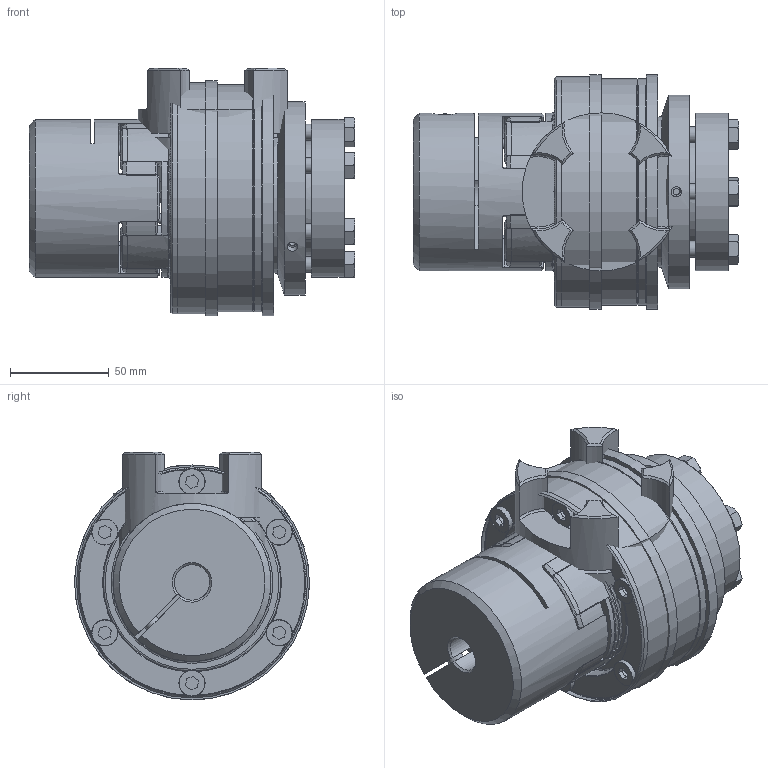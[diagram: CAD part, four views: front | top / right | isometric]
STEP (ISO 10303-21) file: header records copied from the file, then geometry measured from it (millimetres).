
FILE_DESCRIPTION( ( 'Unknown' ), '1' );
FILE_NAME( 'C:/Dokumente und Einstellungen/Sven/Desktop/hp kbk/E-KA/KBK EKA-38-160.stp', 'Unknown', ( 'Unknown' ), ( 'Unknown' ), 'XStep 1.0', 'Unknown', ' ' );
FILE_SCHEMA( ( 'automotive_design' ) );
Length unit declared in the file: millimetre
Products named in the file (18): Assem1; Assem2; Assem3; ball_bearing_-_6011_0_01_0; ball_bearing_-_6011_0_02_0; ball_bearing_-_6011_0_03_0; Zylinderschraube DIN 912_3; KBK L-A-300 Grundkörper_0; Druckring L-A-300_0; Flansch 300_0; Stellring 300_0; Druckring 300_0; a_55_0; din_en_24017_m8x30_0; Elastomerflansch 38_0; Zahnkranz_38_Standard_0; KBE 2 - 38_Nabe; Socket Head Cap Screw_DIN_DIN 912 M8 x 25 --- 25C
Bounding box: 164.9 x 119 x 125.5 mm (x, y, z)
Volume: 1900973.8 mm3; surface area: 521491.5 mm2
Topology: 44 solids, 44 shells, 1071 faces, 2416 edges, 1524 vertices
Faces by surface type: plane 381, cylinder 332, cone 296, torus 62
Full cylindrical faces by diameter (mm): 2.5 x4, 3.242 x6, 5 x16, 5.2 x6, 6.647 x24, 6.8 x2, 8 x17, 8.2 x12, 8.5 x12, 9 x2, 11.63 x7, 13 x10, 13.2 x12, 15 x2, 18 x2, 25 x2, 38 x4, 40 x2, 52 x2, 55 x7, 57.995 x2, 66.3 x6, 76 x4, 79.1 x6, 80 x6, 83.5 x2, 88 x2, 90 x7, 98 x2, 98.5 x2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
Entity records: 12901 total; most frequent: CARTESIAN_POINT 2901, DIRECTION 2080, ORIENTED_EDGE 1634, AXIS2_PLACEMENT_3D 955, EDGE_CURVE 817, EDGE_LOOP 654, VERTEX_POINT 582, FACE_OUTER_BOUND 532
